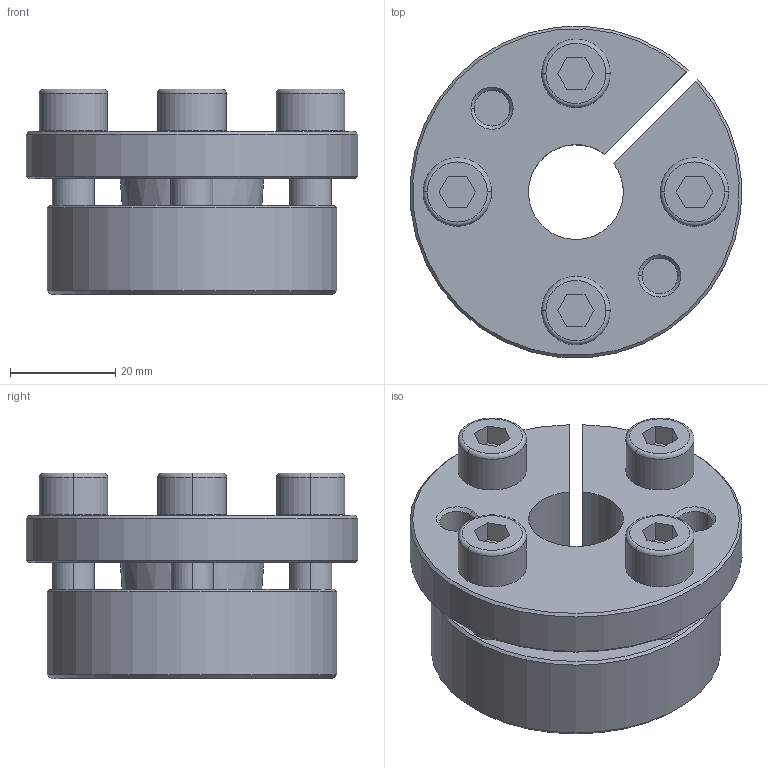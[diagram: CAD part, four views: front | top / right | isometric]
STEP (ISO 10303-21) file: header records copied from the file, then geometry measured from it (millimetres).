
FILE_DESCRIPTION((''),'2;1');
FILE_NAME('398-012-0118','2024-02-18T',('Brieden'),('Brieden'),'PRO/ENGINEER BY PARAMETRIC TECHNOLOGY CORPORATION, 2010160','PRO/ENGINEER BY PARAMETRIC TECHNOLOGY CORPORATION, 2010160','');
FILE_SCHEMA(('AUTOMOTIVE_DESIGN { 1 0 10303 214 1 1 1 1 }'));
Length unit declared in the file: millimetre
Products named in the file (1): 398-012-0118
Bounding box: 62.86 x 62.86 x 39 mm (x, y, z)
Volume: 65239.8 mm3; surface area: 23893.6 mm2
Topology: 2 solids, 2 shells, 118 faces, 270 edges, 172 vertices
Faces by surface type: plane 49, cylinder 39, cone 22, torus 8
Entity records: 4454 total; most frequent: CARTESIAN_POINT 620, DIRECTION 614, ORIENTED_EDGE 540, PRESENTATION_STYLE_ASSIGNMENT 289, STYLED_ITEM 272, CURVE_STYLE 270, EDGE_CURVE 270, AXIS2_PLACEMENT_3D 237
